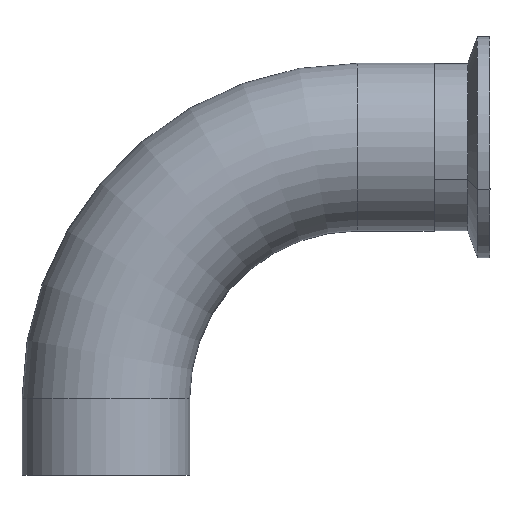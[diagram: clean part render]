
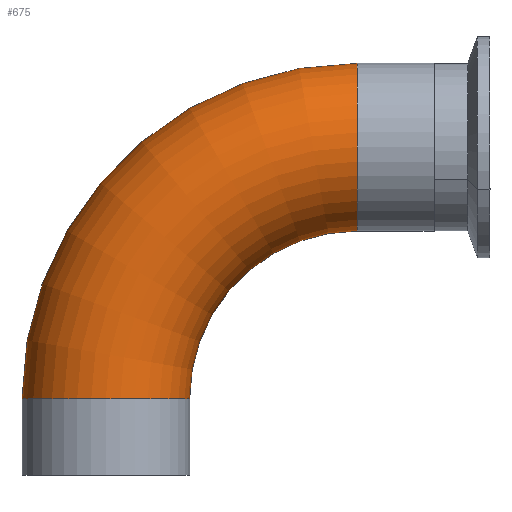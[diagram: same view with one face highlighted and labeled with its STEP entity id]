
A CAD part, top view. The second image highlights one B-rep face of the part: STEP entity #675.
In plain terms, the highlighted toroidal (fillet/blend) face has major radius 57.15 mm and minor radius 19.05 mm.
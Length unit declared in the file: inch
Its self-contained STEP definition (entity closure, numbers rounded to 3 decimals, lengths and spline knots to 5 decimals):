
#9 = AXIS2_PLACEMENT_3D ( 'NONE', #856, #388, #966 ) ;
#31 = AXIS2_PLACEMENT_3D ( 'NONE', #791, #320, #872 ) ;
#55 = VERTEX_POINT ( 'NONE', #755 ) ;
#57 = AXIS2_PLACEMENT_3D ( 'NONE', #260, #817, #343 ) ;
#65 = CARTESIAN_POINT ( 'NONE',  ( -0.08672, 1.02996, 3.07668 ) ) ;
#69 = AXIS2_PLACEMENT_3D ( 'NONE', #740, #255, #815 ) ;
#70 = TOROIDAL_SURFACE ( 'NONE', #557, 2.25, 0.75 ) ;
#116 = DIRECTION ( 'NONE',  ( 0., 0., -1. ) ) ;
#159 = VERTEX_POINT ( 'NONE', #792 ) ;
#187 = ORIENTED_EDGE ( 'NONE', *, *, #245, .F. ) ;
#188 = EDGE_CURVE ( 'NONE', #55, #159, #716, .T. ) ;
#206 = EDGE_CURVE ( 'NONE', #375, #407, #694, .T. ) ;
#213 = ORIENTED_EDGE ( 'NONE', *, *, #280, .T. ) ;
#245 = EDGE_CURVE ( 'NONE', #375, #55, #625, .T. ) ;
#255 = DIRECTION ( 'NONE',  ( 0., 0., -1. ) ) ;
#260 = CARTESIAN_POINT ( 'NONE',  ( 1.41328, 1.02996, 3.07668 ) ) ;
#280 = EDGE_CURVE ( 'NONE', #407, #159, #598, .T. ) ;
#320 = DIRECTION ( 'NONE',  ( 0., -1., 0. ) ) ;
#343 = DIRECTION ( 'NONE',  ( -1., 0., 0. ) ) ;
#375 = VERTEX_POINT ( 'NONE', #65 ) ;
#388 = DIRECTION ( 'NONE',  ( -1., 0., 0. ) ) ;
#407 = VERTEX_POINT ( 'NONE', #736 ) ;
#557 = AXIS2_PLACEMENT_3D ( 'NONE', #751, #116, #832 ) ;
#598 = CIRCLE ( 'NONE', #9, 0.75 ) ;
#625 = CIRCLE ( 'NONE', #31, 0.75 ) ;
#631 = ORIENTED_EDGE ( 'NONE', *, *, #206, .T. ) ;
#675 = ADVANCED_FACE ( 'NONE', ( #881 ), #70, .T. ) ;
#694 = CIRCLE ( 'NONE', #57, 1.5 ) ;
#716 = CIRCLE ( 'NONE', #69, 3. ) ;
#736 = CARTESIAN_POINT ( 'NONE',  ( 1.41328, 2.52996, 3.07668 ) ) ;
#740 = CARTESIAN_POINT ( 'NONE',  ( 1.41328, 1.02996, 3.07668 ) ) ;
#751 = CARTESIAN_POINT ( 'NONE',  ( 1.41328, 1.02996, 3.07668 ) ) ;
#755 = CARTESIAN_POINT ( 'NONE',  ( -1.58672, 1.02996, 3.07668 ) ) ;
#791 = CARTESIAN_POINT ( 'NONE',  ( -0.83672, 1.02996, 3.07668 ) ) ;
#792 = CARTESIAN_POINT ( 'NONE',  ( 1.41328, 4.02996, 3.07668 ) ) ;
#793 = ORIENTED_EDGE ( 'NONE', *, *, #188, .F. ) ;
#815 = DIRECTION ( 'NONE',  ( -1., 0., 0. ) ) ;
#817 = DIRECTION ( 'NONE',  ( 0., 0., -1. ) ) ;
#832 = DIRECTION ( 'NONE',  ( -1., 0., 0. ) ) ;
#856 = CARTESIAN_POINT ( 'NONE',  ( 1.41328, 3.27996, 3.07668 ) ) ;
#872 = DIRECTION ( 'NONE',  ( 1., 0., 0. ) ) ;
#881 = FACE_OUTER_BOUND ( 'NONE', #992, .T. ) ;
#966 = DIRECTION ( 'NONE',  ( 0., -1., 0. ) ) ;
#992 = EDGE_LOOP ( 'NONE', ( #793, #187, #631, #213 ) ) ;
